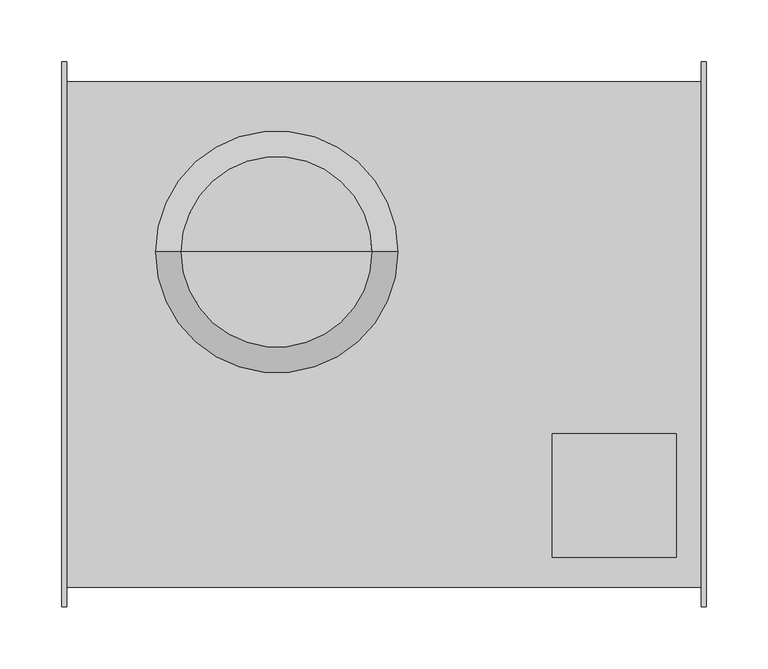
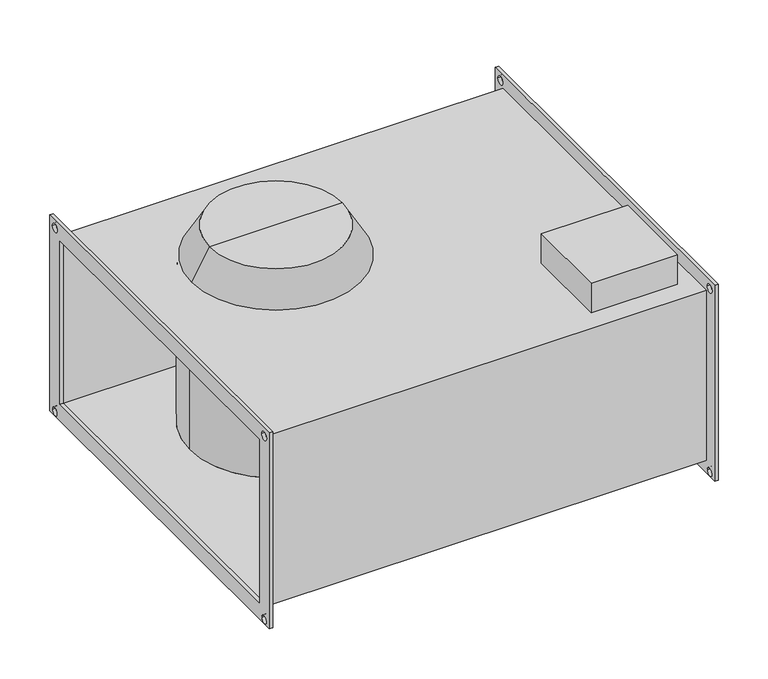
"""IFC4 building model written with IfcOpenShell, lengths in millimetres: proxy geometry."""

from ifc_helpers import new_model, si_unit, frame, origin, place, context, project, spatial, polyline, circle_curve, source, transform, mapped, element, save
from ifc_brep_helpers import plane_surface, cylinder_surface, revolved_surface, advanced_brep


def mechanical_equipment_d7fc5e09(model_context):
    return source(origin(), model_context, "Body", "AdvancedBrep", [
        advanced_brep(
        [(256.0, 220.0, 120.0), (256.0, 220.0, -120.0), (256.0, 210.0, -120.0), (256.0, 215.0, -115.0), (256.0, 205.0, -115.0), (256.0, -210.0, -120.0), (256.0, -205.0, -115.0), (256.0, -215.0, -115.0), (256.0, -220.0, -120.0), (256.0, -220.0, 120.0), (256.0, 200.0, 100.0), (256.0, -200.0, 100.0), (256.0, -200.0, -100.0), (256.0, 200.0, -100.0), (256.0, 205.0, 110.0), (256.0, 215.0, 110.0), (256.0, -215.0, 110.0), (256.0, -205.0, 110.0), (260.0, 220.0, 120.0), (260.0, -220.0, 120.0), (260.0, -220.0, -120.0), (260.0, -210.0, -120.0), (260.0, -215.0, -115.0), (260.0, -205.0, -115.0), (260.0, 210.0, -120.0), (260.0, 205.0, -115.0), (260.0, 215.0, -115.0), (260.0, 220.0, -120.0), (260.0, 200.0, 100.0), (260.0, 200.0, -100.0), (260.0, -200.0, -100.0), (260.0, -200.0, 100.0), (260.0, 215.0, 110.0), (260.0, 205.0, 110.0), (260.0, -205.0, 110.0), (260.0, -215.0, 110.0)],
        [
            (0, 1),
            (1, 2),
            (2, 3, circle_curve(frame((256.0, 210.0, -115.0), z_axis=(1.0, 0.0, 0.0), x_axis=(0.0, 1.0, 0.0)), 5.0)),
            (3, 4, circle_curve(frame((256.0, 210.0, -115.0), z_axis=(1.0, 0.0, 0.0), x_axis=(0.0, 1.0, 0.0)), 5.0)),
            (4, 2, circle_curve(frame((256.0, 210.0, -115.0), z_axis=(1.0, 0.0, 0.0), x_axis=(0.0, 1.0, 0.0)), 5.0)),
            (2, 5),
            (5, 6, circle_curve(frame((256.0, -210.0, -115.0), z_axis=(1.0, 0.0, 0.0), x_axis=(0.0, 1.0, 0.0)), 5.0)),
            (6, 7, circle_curve(frame((256.0, -210.0, -115.0), z_axis=(1.0, 0.0, 0.0), x_axis=(0.0, 1.0, 0.0)), 5.0)),
            (7, 5, circle_curve(frame((256.0, -210.0, -115.0), z_axis=(1.0, 0.0, 0.0), x_axis=(0.0, 1.0, 0.0)), 5.0)),
            (5, 8),
            (8, 9),
            (9, 0),
            (10, 11),
            (11, 12),
            (12, 13),
            (13, 10),
            (14, 15, circle_curve(frame((256.0, 210.0, 110.0), z_axis=(1.0, 0.0, 0.0), x_axis=(0.0, 1.0, 0.0)), 5.0)),
            (15, 14, circle_curve(frame((256.0, 210.0, 110.0), z_axis=(1.0, 0.0, 0.0), x_axis=(0.0, 1.0, 0.0)), 5.0)),
            (16, 17, circle_curve(frame((256.0, -210.0, 110.0), z_axis=(1.0, 0.0, 0.0), x_axis=(0.0, 1.0, 0.0)), 5.0)),
            (17, 16, circle_curve(frame((256.0, -210.0, 110.0), z_axis=(1.0, 0.0, 0.0), x_axis=(0.0, 1.0, 0.0)), 5.0)),
            (18, 19),
            (19, 20),
            (20, 21),
            (21, 22, circle_curve(frame((260.0, -210.0, -115.0), z_axis=(-1.0, 0.0, 0.0), x_axis=(0.0, 1.0, 0.0)), 5.0)),
            (22, 23, circle_curve(frame((260.0, -210.0, -115.0), z_axis=(-1.0, 0.0, 0.0), x_axis=(0.0, 1.0, 0.0)), 5.0)),
            (23, 21, circle_curve(frame((260.0, -210.0, -115.0), z_axis=(-1.0, 0.0, 0.0), x_axis=(0.0, 1.0, 0.0)), 5.0)),
            (21, 24),
            (24, 25, circle_curve(frame((260.0, 210.0, -115.0), z_axis=(-1.0, 0.0, 0.0), x_axis=(0.0, 1.0, 0.0)), 5.0)),
            (25, 26, circle_curve(frame((260.0, 210.0, -115.0), z_axis=(-1.0, 0.0, 0.0), x_axis=(0.0, 1.0, 0.0)), 5.0)),
            (26, 24, circle_curve(frame((260.0, 210.0, -115.0), z_axis=(-1.0, 0.0, 0.0), x_axis=(0.0, 1.0, 0.0)), 5.0)),
            (24, 27),
            (27, 18),
            (28, 29),
            (29, 30),
            (30, 31),
            (31, 28),
            (32, 33, circle_curve(frame((260.0, 210.0, 110.0), z_axis=(-1.0, 0.0, 0.0), x_axis=(0.0, 1.0, 0.0)), 5.0)),
            (33, 32, circle_curve(frame((260.0, 210.0, 110.0), z_axis=(-1.0, 0.0, 0.0), x_axis=(0.0, 1.0, 0.0)), 5.0)),
            (34, 35, circle_curve(frame((260.0, -210.0, 110.0), z_axis=(-1.0, 0.0, 0.0), x_axis=(0.0, 1.0, 0.0)), 5.0)),
            (35, 34, circle_curve(frame((260.0, -210.0, 110.0), z_axis=(-1.0, 0.0, 0.0), x_axis=(0.0, 1.0, 0.0)), 5.0)),
            (13, 29),
            (28, 10),
            (12, 30),
            (11, 31),
            (9, 19),
            (18, 0),
            (8, 20),
            (1, 27),
            (14, 33),
            (32, 15),
            (16, 35),
            (34, 17),
            (7, 22),
            (23, 6),
            (4, 25),
            (26, 3),
        ],
        [
            plane_surface(frame((256.0, 200.0, -100.0), z_axis=(-1.0, 0.0, 0.0), x_axis=(0.0, 0.0, 1.0))),
            plane_surface(frame((260.0, 200.0, -100.0), z_axis=(1.0, 0.0, 0.0), x_axis=(0.0, 0.0, -1.0))),
            plane_surface(frame((260.0, 200.0, 100.0), z_axis=(0.0, -1.0, 0.0), x_axis=(-1.0, 0.0, 0.0))),
            plane_surface(frame((260.0, 200.0, -100.0), z_axis=(0.0, 0.0, 1.0), x_axis=(-1.0, 0.0, 0.0))),
            plane_surface(frame((260.0, -200.0, -100.0), z_axis=(0.0, 1.0, 0.0), x_axis=(-1.0, 0.0, 0.0))),
            plane_surface(frame((260.0, -200.0, 100.0), z_axis=(0.0, 0.0, -1.0), x_axis=(-1.0, 0.0, 0.0))),
            plane_surface(frame((260.0, 220.0, 120.0), z_axis=(0.0, 0.0, 1.0), x_axis=(-1.0, 0.0, 0.0))),
            plane_surface(frame((260.0, -220.0, 120.0), z_axis=(0.0, -1.0, 0.0), x_axis=(-1.0, 0.0, 0.0))),
            plane_surface(frame((260.0, -220.0, -120.0), z_axis=(0.0, 0.0, -1.0), x_axis=(-1.0, 0.0, 0.0))),
            plane_surface(frame((260.0, 220.0, -120.0), z_axis=(0.0, 1.0, 0.0), x_axis=(-1.0, 0.0, 0.0))),
            revolved_surface(polyline([(260.0, 215.0, 110.0), (256.0, 215.0, 110.0)]), (-260.0, 210.0, 110.0), (1.0, 0.0, 0.0)),
            revolved_surface(polyline([(260.0, -205.0, 110.0), (256.0, -205.0, 110.0)]), (0.0, -210.0, 110.0), (1.0, 0.0, 0.0)),
            revolved_surface(polyline([(260.0, -205.0, -115.0), (256.0, -205.0, -115.0)]), (0.0, -210.0, -115.0), (1.0, 0.0, 0.0)),
            revolved_surface(polyline([(260.0, 215.0, -115.0), (256.0, 215.0, -115.0)]), (0.0, 210.0, -115.0), (1.0, 0.0, 0.0)),
        ],
        [
            (0, [[1, 2, 3, 4, 5, 6, 7, 8, 9, 10, 11, 12], [13, 14, 15, 16], [17, 18], [19, 20]]),
            (1, [[21, 22, 23, 24, 25, 26, 27, 28, 29, 30, 31, 32], [33, 34, 35, 36], [37, 38], [39, 40]]),
            (2, [[-16, 41, -33, 42]]),
            (3, [[-15, 43, -34, -41]]),
            (4, [[-14, 44, -35, -43]]),
            (5, [[-13, -42, -36, -44]]),
            (6, [[-12, 45, -21, 46]]),
            (7, [[-11, 47, -22, -45]]),
            (8, [[-47, -10, -6, -2, 48, -31, -27, -23]]),
            (9, [[-1, -46, -32, -48]]),
            (10, [[49, -37, 50, -17]]),
            (10, [[-49, -18, -50, -38]]),
            (11, [[51, -39, 52, -19]]),
            (11, [[-51, -20, -52, -40]]),
            (12, [[53, -24, -26, 54, -7, -9]]),
            (12, [[-53, -8, -54, -25]]),
            (13, [[55, -28, -30, 56, -3, -5]]),
            (13, [[-55, -4, -56, -29]]),
        ],
    ),
        advanced_brep(
        [(-260.0, -220.0, 120.0), (-260.0, 220.0, 120.0), (-260.0, 220.0, -120.0), (-260.0, 210.0, -120.0), (-260.0, 215.0, -115.0), (-260.0, 205.0, -115.0), (-260.0, -210.0, -120.0), (-260.0, -205.0, -115.0), (-260.0, -215.0, -115.0), (-260.0, -220.0, -120.0), (-260.0, -200.0, 100.0), (-260.0, -200.0, -100.0), (-260.0, 200.0, -100.0), (-260.0, 200.0, 100.0), (-260.0, 205.0, 110.0), (-260.0, 215.0, 110.0), (-260.0, -215.0, 110.0), (-260.0, -205.0, 110.0), (-256.0, -220.0, 120.0), (-256.0, -220.0, -120.0), (-256.0, -210.0, -120.0), (-256.0, -215.0, -115.0), (-256.0, -205.0, -115.0), (-256.0, 210.0, -120.0), (-256.0, 205.0, -115.0), (-256.0, 215.0, -115.0), (-256.0, 220.0, -120.0), (-256.0, 220.0, 120.0), (-256.0, -200.0, 100.0), (-256.0, 200.0, 100.0), (-256.0, 200.0, -100.0), (-256.0, -200.0, -100.0), (-256.0, 215.0, 110.0), (-256.0, 205.0, 110.0), (-256.0, -205.0, 110.0), (-256.0, -215.0, 110.0)],
        [
            (0, 1),
            (1, 2),
            (2, 3),
            (3, 4, circle_curve(frame((-260.0, 210.0, -115.0), z_axis=(1.0, 0.0, 0.0), x_axis=(0.0, 1.0, 0.0)), 5.0)),
            (4, 5, circle_curve(frame((-260.0, 210.0, -115.0), z_axis=(1.0, 0.0, 0.0), x_axis=(0.0, 1.0, 0.0)), 5.0)),
            (5, 3, circle_curve(frame((-260.0, 210.0, -115.0), z_axis=(1.0, 0.0, 0.0), x_axis=(0.0, 1.0, 0.0)), 5.0)),
            (3, 6),
            (6, 7, circle_curve(frame((-260.0, -210.0, -115.0), z_axis=(1.0, 0.0, 0.0), x_axis=(0.0, 1.0, 0.0)), 5.0)),
            (7, 8, circle_curve(frame((-260.0, -210.0, -115.0), z_axis=(1.0, 0.0, 0.0), x_axis=(0.0, 1.0, 0.0)), 5.0)),
            (8, 6, circle_curve(frame((-260.0, -210.0, -115.0), z_axis=(1.0, 0.0, 0.0), x_axis=(0.0, 1.0, 0.0)), 5.0)),
            (6, 9),
            (9, 0),
            (10, 11),
            (11, 12),
            (12, 13),
            (13, 10),
            (14, 15, circle_curve(frame((-260.0, 210.0, 110.0), z_axis=(1.0, 0.0, 0.0), x_axis=(0.0, 1.0, 0.0)), 5.0)),
            (15, 14, circle_curve(frame((-260.0, 210.0, 110.0), z_axis=(1.0, 0.0, 0.0), x_axis=(0.0, 1.0, 0.0)), 5.0)),
            (16, 17, circle_curve(frame((-260.0, -210.0, 110.0), z_axis=(1.0, 0.0, 0.0), x_axis=(0.0, 1.0, 0.0)), 5.0)),
            (17, 16, circle_curve(frame((-260.0, -210.0, 110.0), z_axis=(1.0, 0.0, 0.0), x_axis=(0.0, 1.0, 0.0)), 5.0)),
            (18, 19),
            (19, 20),
            (20, 21, circle_curve(frame((-256.0, -210.0, -115.0), z_axis=(-1.0, 0.0, 0.0), x_axis=(0.0, 1.0, 0.0)), 5.0)),
            (21, 22, circle_curve(frame((-256.0, -210.0, -115.0), z_axis=(-1.0, 0.0, 0.0), x_axis=(0.0, 1.0, 0.0)), 5.0)),
            (22, 20, circle_curve(frame((-256.0, -210.0, -115.0), z_axis=(-1.0, 0.0, 0.0), x_axis=(0.0, 1.0, 0.0)), 5.0)),
            (20, 23),
            (23, 24, circle_curve(frame((-256.0, 210.0, -115.0), z_axis=(-1.0, 0.0, 0.0), x_axis=(0.0, 1.0, 0.0)), 5.0)),
            (24, 25, circle_curve(frame((-256.0, 210.0, -115.0), z_axis=(-1.0, 0.0, 0.0), x_axis=(0.0, 1.0, 0.0)), 5.0)),
            (25, 23, circle_curve(frame((-256.0, 210.0, -115.0), z_axis=(-1.0, 0.0, 0.0), x_axis=(0.0, 1.0, 0.0)), 5.0)),
            (23, 26),
            (26, 27),
            (27, 18),
            (28, 29),
            (29, 30),
            (30, 31),
            (31, 28),
            (32, 33, circle_curve(frame((-256.0, 210.0, 110.0), z_axis=(-1.0, 0.0, 0.0), x_axis=(0.0, 1.0, 0.0)), 5.0)),
            (33, 32, circle_curve(frame((-256.0, 210.0, 110.0), z_axis=(-1.0, 0.0, 0.0), x_axis=(0.0, 1.0, 0.0)), 5.0)),
            (34, 35, circle_curve(frame((-256.0, -210.0, 110.0), z_axis=(-1.0, 0.0, 0.0), x_axis=(0.0, 1.0, 0.0)), 5.0)),
            (35, 34, circle_curve(frame((-256.0, -210.0, 110.0), z_axis=(-1.0, 0.0, 0.0), x_axis=(0.0, 1.0, 0.0)), 5.0)),
            (9, 19),
            (18, 0),
            (2, 26),
            (1, 27),
            (13, 29),
            (28, 10),
            (12, 30),
            (11, 31),
            (14, 33),
            (32, 15),
            (16, 35),
            (34, 17),
            (8, 21),
            (22, 7),
            (5, 24),
            (25, 4),
        ],
        [
            plane_surface(frame((-260.0, -220.0, 120.0), z_axis=(-1.0, 0.0, 0.0), x_axis=(0.0, 0.0, 1.0))),
            plane_surface(frame((-256.0, -220.0, 120.0), z_axis=(1.0, 0.0, 0.0), x_axis=(0.0, 0.0, -1.0))),
            plane_surface(frame((-256.0, -220.0, 120.0), z_axis=(0.0, -1.0, 0.0), x_axis=(-1.0, 0.0, 0.0))),
            plane_surface(frame((-256.0, -220.0, -120.0), z_axis=(0.0, 0.0, -1.0), x_axis=(-1.0, 0.0, 0.0))),
            plane_surface(frame((-256.0, 220.0, -120.0), z_axis=(0.0, 1.0, 0.0), x_axis=(-1.0, 0.0, 0.0))),
            plane_surface(frame((-256.0, 220.0, 120.0), z_axis=(0.0, 0.0, 1.0), x_axis=(-1.0, 0.0, 0.0))),
            plane_surface(frame((-256.0, -200.0, 100.0), z_axis=(0.0, 0.0, -1.0), x_axis=(-1.0, 0.0, 0.0))),
            plane_surface(frame((-256.0, 200.0, 100.0), z_axis=(0.0, -1.0, 0.0), x_axis=(-1.0, 0.0, 0.0))),
            plane_surface(frame((-256.0, 200.0, -100.0), z_axis=(0.0, 0.0, 1.0), x_axis=(-1.0, 0.0, 0.0))),
            plane_surface(frame((-256.0, -200.0, -100.0), z_axis=(0.0, 1.0, 0.0), x_axis=(-1.0, 0.0, 0.0))),
            revolved_surface(polyline([(-256.0, 215.0, 110.0), (-260.0, 215.0, 110.0)]), (-260.0, 210.0, 110.0), (1.0, 0.0, 0.0)),
            revolved_surface(polyline([(-256.0, -205.0, 110.0), (-260.0, -205.0, 110.0)]), (0.0, -210.0, 110.0), (1.0, 0.0, 0.0)),
            revolved_surface(polyline([(-256.0, -205.0, -115.0), (-260.0, -205.0, -115.0)]), (0.0, -210.0, -115.0), (1.0, 0.0, 0.0)),
            revolved_surface(polyline([(-256.0, 215.0, -115.0), (-260.0, 215.0, -115.0)]), (0.0, 210.0, -115.0), (1.0, 0.0, 0.0)),
        ],
        [
            (0, [[1, 2, 3, 4, 5, 6, 7, 8, 9, 10, 11, 12], [13, 14, 15, 16], [17, 18], [19, 20]]),
            (1, [[21, 22, 23, 24, 25, 26, 27, 28, 29, 30, 31, 32], [33, 34, 35, 36], [37, 38], [39, 40]]),
            (2, [[-12, 41, -21, 42]]),
            (3, [[-41, -11, -7, -3, 43, -30, -26, -22]]),
            (4, [[-2, 44, -31, -43]]),
            (5, [[-1, -42, -32, -44]]),
            (6, [[-16, 45, -33, 46]]),
            (7, [[-15, 47, -34, -45]]),
            (8, [[-14, 48, -35, -47]]),
            (9, [[-13, -46, -36, -48]]),
            (10, [[49, -37, 50, -17]]),
            (10, [[-49, -18, -50, -38]]),
            (11, [[51, -39, 52, -19]]),
            (11, [[-51, -20, -52, -40]]),
            (12, [[53, -23, -25, 54, -8, -10]]),
            (12, [[-53, -9, -54, -24]]),
            (13, [[55, -27, -29, 56, -4, -6]]),
            (13, [[-55, -5, -56, -28]]),
        ],
    ),
        advanced_brep(
        [(-86.6666667, 66.6666667, 140.0), (-163.5726559, 66.6666667, 140.0), (-9.7606774, 66.6666667, 140.0), (-186.6666667, 66.6666667, 100.0), (-186.6666667, 66.6666667, -100.0), (13.3333333, 66.6666667, -100.0), (13.3333333, 66.6666667, 100.0), (256.0, -204.0, 104.0), (256.0, -204.0, -104.0), (256.0, 204.0, -104.0), (256.0, 204.0, 104.0), (256.0, 200.0, 100.0), (256.0, 200.0, -100.0), (256.0, -200.0, -100.0), (256.0, -200.0, 100.0), (-256.0, -204.0, 104.0), (-256.0, 204.0, 104.0), (-256.0, 204.0, -104.0), (-256.0, -204.0, -104.0), (-256.0, 200.0, 100.0), (-256.0, -200.0, 100.0), (-256.0, -200.0, -100.0), (-256.0, 200.0, -100.0), (136.0, -80.0, 104.0), (236.0, -80.0, 104.0), (236.0, -180.0, 104.0), (136.0, -180.0, 104.0), (11.0239323, 66.6666667, 104.0), (-184.3572656, 66.6666667, 104.0), (236.0, -80.0, 140.0), (136.0, -80.0, 140.0), (136.0, -180.0, 140.0), (236.0, -180.0, 140.0)],
        [
            (0, 1),
            (1, 2, circle_curve(frame((-86.6666667, 66.6666667, 140.0), z_axis=(0.0, 0.0, 1.0), x_axis=(-1.0, 0.0, 0.0)), 76.9059892)),
            (2, 0),
            (2, 1, circle_curve(frame((-86.6666667, 66.6666667, 140.0), z_axis=(0.0, 0.0, 1.0), x_axis=(-1.0, 0.0, 0.0)), 76.9059892)),
            (3, 4),
            (4, 5, circle_curve(frame((-86.6666667, 66.6666667, -100.0), z_axis=(0.0, 0.0, 1.0), x_axis=(-1.0, 0.0, 0.0)), 100.0)),
            (5, 6),
            (6, 3, circle_curve(frame((-86.6666667, 66.6666667, 100.0), z_axis=(0.0, 0.0, -1.0), x_axis=(-1.0, 0.0, 0.0)), 100.0)),
            (3, 6, circle_curve(frame((-86.6666667, 66.6666667, 100.0), z_axis=(0.0, 0.0, -1.0), x_axis=(-1.0, 0.0, 0.0)), 100.0)),
            (5, 4, circle_curve(frame((-86.6666667, 66.6666667, -100.0), z_axis=(0.0, 0.0, 1.0), x_axis=(-1.0, 0.0, 0.0)), 100.0)),
            (7, 8),
            (8, 9),
            (9, 10),
            (10, 7),
            (11, 12),
            (12, 13),
            (13, 14),
            (14, 11),
            (15, 16),
            (16, 17),
            (17, 18),
            (18, 15),
            (19, 20),
            (20, 21),
            (21, 22),
            (22, 19),
            (11, 19),
            (22, 12),
            (21, 13),
            (20, 14),
            (7, 15),
            (18, 8),
            (17, 9),
            (16, 10),
            (23, 24),
            (24, 25),
            (25, 26),
            (26, 23),
            (27, 28, circle_curve(frame((-86.6666667, 66.6666667, 104.0), z_axis=(0.0, 0.0, -1.0), x_axis=(-1.0, 0.0, 0.0)), 97.6905989)),
            (28, 27, circle_curve(frame((-86.6666667, 66.6666667, 104.0), z_axis=(0.0, 0.0, -1.0), x_axis=(-1.0, 0.0, 0.0)), 97.6905989)),
            (29, 30),
            (30, 31),
            (31, 32),
            (32, 29),
            (29, 24),
            (23, 30),
            (26, 31),
            (25, 32),
            (1, 28),
            (27, 2),
        ],
        [
            plane_surface(frame((-86.6666667, 66.6666667, 140.0), z_axis=(0.0, 0.0, 1.0), x_axis=(-1.0, 0.0, 0.0))),
            cylinder_surface(frame((-86.6666667, 66.6666667, 2215.3096565), z_axis=(0.0, 0.0, 1.0), x_axis=(-1.0, 0.0, 0.0)), 100.0),
            plane_surface(frame((256.0, 200.0, -100.0), z_axis=(1.0, 0.0, 0.0), x_axis=(0.0, 0.0, -1.0))),
            plane_surface(frame((-256.0, 200.0, -100.0), z_axis=(-1.0, 0.0, 0.0), x_axis=(0.0, 0.0, 1.0))),
            plane_surface(frame((256.0, 200.0, 100.0), z_axis=(0.0, -1.0, 0.0), x_axis=(-1.0, 0.0, 0.0))),
            plane_surface(frame((256.0, 200.0, -100.0), z_axis=(0.0, 0.0, 1.0), x_axis=(-1.0, 0.0, 0.0))),
            plane_surface(frame((256.0, -200.0, -100.0), z_axis=(0.0, 1.0, 0.0), x_axis=(-1.0, 0.0, 0.0))),
            plane_surface(frame((256.0, -200.0, 100.0), z_axis=(0.0, 0.0, -1.0), x_axis=(-1.0, 0.0, 0.0))),
            plane_surface(frame((256.0, -204.0, 104.0), z_axis=(0.0, -1.0, 0.0), x_axis=(-1.0, 0.0, 0.0))),
            plane_surface(frame((256.0, -204.0, -104.0), z_axis=(0.0, 0.0, -1.0), x_axis=(-1.0, 0.0, 0.0))),
            plane_surface(frame((256.0, 204.0, -104.0), z_axis=(0.0, 1.0, 0.0), x_axis=(-1.0, 0.0, 0.0))),
            plane_surface(frame((256.0, 204.0, 104.0), z_axis=(0.0, 0.0, 1.0), x_axis=(-1.0, 0.0, 0.0))),
            plane_surface(frame((136.0, -80.0, 140.0), z_axis=(0.0, 0.0, 1.0), x_axis=(-1.0, 0.0, 0.0))),
            plane_surface(frame((236.0, -80.0, 140.0), z_axis=(0.0, 1.0, 0.0), x_axis=(0.0, 0.0, -1.0))),
            plane_surface(frame((136.0, -80.0, 140.0), z_axis=(-1.0, 0.0, 0.0), x_axis=(0.0, 0.0, -1.0))),
            plane_surface(frame((136.0, -180.0, 140.0), z_axis=(0.0, -1.0, 0.0), x_axis=(0.0, 0.0, -1.0))),
            plane_surface(frame((236.0, -180.0, 140.0), z_axis=(1.0, 0.0, 0.0), x_axis=(0.0, 0.0, -1.0))),
            revolved_surface(polyline([(-186.6666667, 66.6666667, 100.0), (-163.5726559, 66.6666667, 140.0)]), (-86.6666667, 66.6666667, 2215.3096565), (0.0, 0.0, 1.0)),
        ],
        [
            (0, [[1, 2, 3]]),
            (0, [[-1, -3, 4]]),
            (1, [[5, 6, 7, 8]]),
            (1, [[-5, 9, -7, 10]]),
            (2, [[11, 12, 13, 14], [15, 16, 17, 18]]),
            (3, [[19, 20, 21, 22], [23, 24, 25, 26]]),
            (4, [[-15, 27, -26, 28]]),
            (5, [[-16, -28, -25, 29], [-6, -10]]),
            (6, [[-17, -29, -24, 30]]),
            (7, [[-18, -30, -23, -27], [-8, -9]]),
            (8, [[-11, 31, -22, 32]]),
            (9, [[-12, -32, -21, 33]]),
            (10, [[-13, -33, -20, 34]]),
            (11, [[-14, -34, -19, -31], [35, 36, 37, 38], [39, 40]]),
            (12, [[41, 42, 43, 44]]),
            (13, [[-41, 45, -35, 46]]),
            (14, [[-42, -46, -38, 47]]),
            (15, [[-43, -47, -37, 48]]),
            (16, [[-44, -48, -36, -45]]),
            (17, [[-2, 49, -39, 50]]),
            (17, [[-4, -50, -40, -49]]),
        ],
    ),
    ])


if __name__ == "__main__":
    model = new_model("IFC4")
    model_context = context("Model", 3, world=origin())
    ifc_project = project(units=[si_unit("LENGTHUNIT", "METRE", prefix="MILLI")], contexts=[model_context])
    site = spatial("IfcSite", under=ifc_project)
    building = spatial("IfcBuilding", under=site)
    placement = place(None, origin())
    mechanical_equipment_shape = mechanical_equipment_d7fc5e09(model_context)
    element("IfcBuildingElementProxy", 1, Name="Mechanical Equipment", at=placement, inside=building, context=model_context, shape_type="MappedRepresentation", body=[
        mapped(mechanical_equipment_shape, transform((0.0, 0.0, 0.0), x_axis=(1.0, 0.0, 0.0), y_axis=(0.0, 1.0, 0.0), z_axis=(0.0, 0.0, 1.0))),
    ])
    save(model, "model.ifc")
